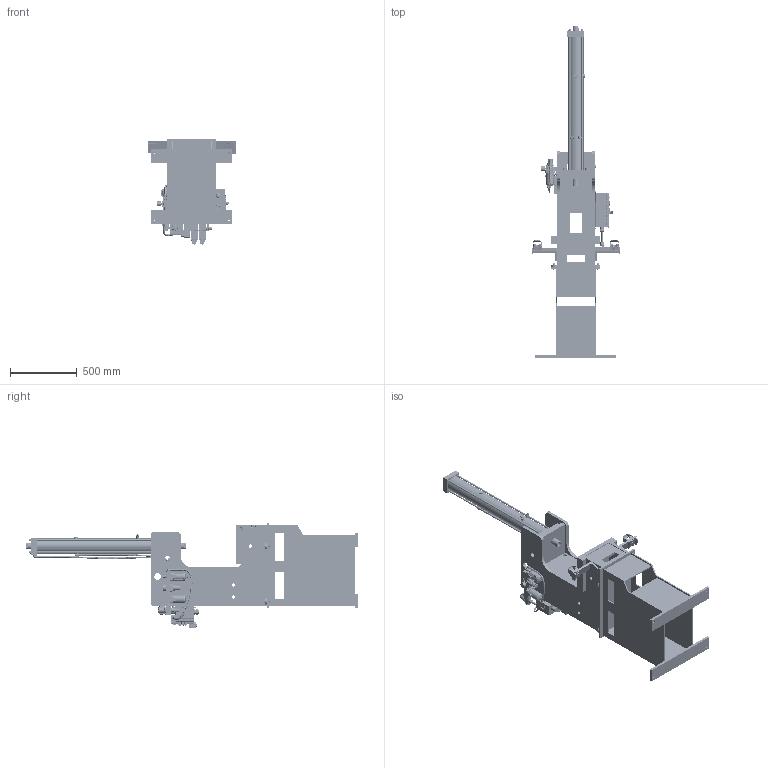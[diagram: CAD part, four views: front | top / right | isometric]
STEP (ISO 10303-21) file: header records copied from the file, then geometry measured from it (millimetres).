
FILE_DESCRIPTION (( 'STEP AP214' ), '1' );
FILE_NAME ('AH-9L-CF-H-PB.STEP', '2020-07-02T19:20:26', ( '' ), ( '' ), 'SwSTEP 2.0', 'SolidWorks 2018', '' );
FILE_SCHEMA (( 'AUTOMOTIVE_DESIGN' ));
Length unit declared in the file: inch
Products named in the file (11): Group2^AH-9L-CF-H-PB web; Group1^AH-9L-CF-H-PB web; Group3^AH-9L-CF-H-PB web; Group4^AH-9L-CF-H-PB web; Group5^AH-9L-CF-H-PB web; AH-9L-CF-H-PB
Assembly tree (5 placements, depth 2):
  Group3^AH-9L-CF-H-PB web
  Group4^AH-9L-CF-H-PB web
  Group5^AH-9L-CF-H-PB web
  Group2^AH-9L-CF-H-PB web
  Group1^AH-9L-CF-H-PB web
Bounding box: 663.86 x 2489.26 x 791.28 mm (x, y, z)
Volume: 95011225.1 mm3; surface area: 11080489.7 mm2
Topology: 10 solids, 87 shells, 8516 faces, 23501 edges, 15434 vertices
Faces by surface type: plane 4514, cylinder 2162, cone 826, bspline 694, torus 236, sphere 84
Entity records: 386488 total; most frequent: CARTESIAN_POINT 131310, ORIENTED_EDGE 45164, DIRECTION 40949, EDGE_CURVE 23401, VERTEX_POINT 15428, VECTOR 14069, LINE 14069, AXIS2_PLACEMENT_3D 13440
